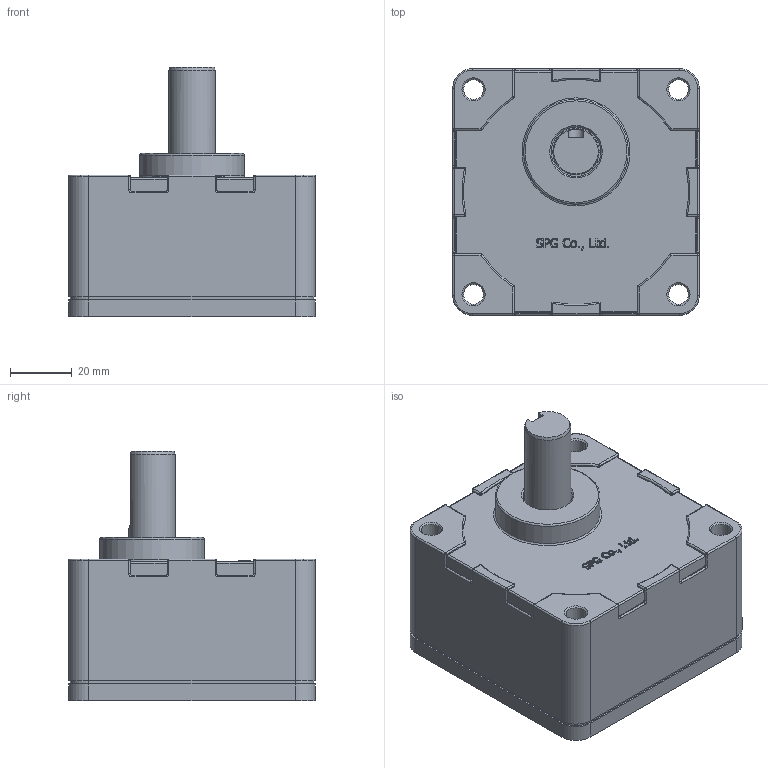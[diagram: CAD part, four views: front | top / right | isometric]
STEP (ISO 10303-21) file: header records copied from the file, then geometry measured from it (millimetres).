
FILE_DESCRIPTION((''),'2;1');
FILE_NAME('C:\Documents and Settings\Administrator\바탕 화면\BLDC 3D FILE\GEAR HEAD ASS''Y\60\XTG830K~XTG8100K.stp','2014-06-19T12:45:22',('kdhkdh'),(''),'Autodesk Inventor 2011','Autodesk Inventor 2011','');
FILE_SCHEMA(('AUTOMOTIVE_DESIGN { 1 0 10303 214 1 1 1 1 }'));
Length unit declared in the file: millimetre
Products named in the file (1): 부품6
Bounding box: 80 x 80 x 81 mm (x, y, z)
Volume: 282415.7 mm3; surface area: 35246.4 mm2
Topology: 1 solids, 1 shells, 449 faces, 1125 edges, 681 vertices
Faces by surface type: plane 152, cylinder 140, bspline 81, sphere 32, torus 30, cone 14
Full cylindrical faces by diameter (mm): 3 x2, 4 x4, 4.3 x4, 6.5 x8, 7.5 x1, 8 x4, 15 x1, 16 x1, 34 x1, 73 x1
Entity records: 13324 total; most frequent: CARTESIAN_POINT 3340, ORIENTED_EDGE 2072, DIRECTION 1941, EDGE_CURVE 1036, AXIS2_PLACEMENT_3D 704, VERTEX_POINT 666, EDGE_LOOP 534, VECTOR 533
